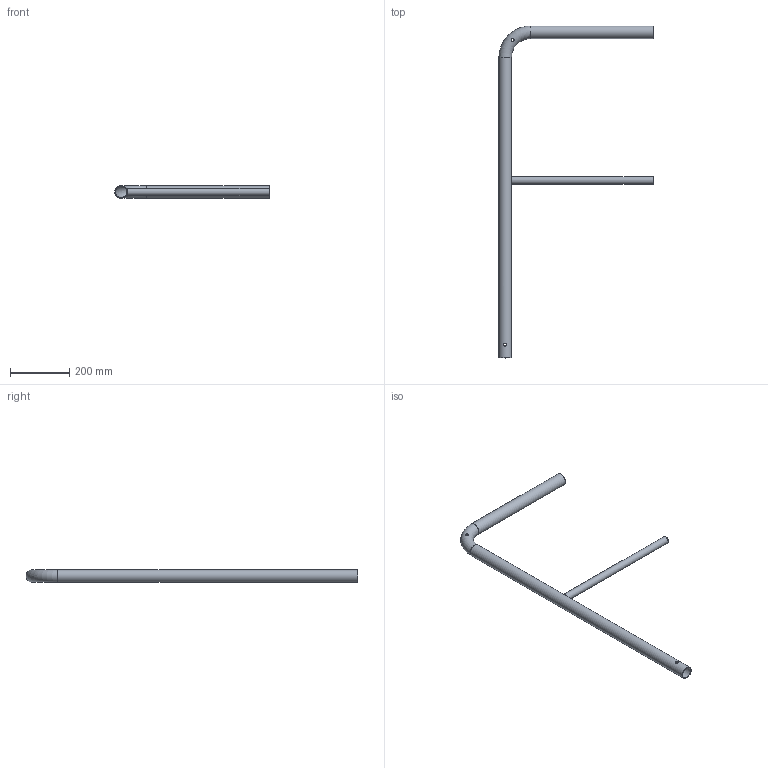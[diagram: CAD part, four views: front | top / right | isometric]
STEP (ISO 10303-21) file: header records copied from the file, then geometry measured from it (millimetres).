
FILE_DESCRIPTION((''),'2;1');
FILE_NAME('S:\Användarkataloger\AndreasA\Mina Inventor filer\Räcken\STEP\ändräcke_smodul_500-1100.stp','2010-09-07T13:41:46',('AndreasA'),(''),'Autodesk Inventor 2011','Autodesk Inventor 2011','');
FILE_SCHEMA(('AUTOMOTIVE_DESIGN { 1 0 10303 214 1 1 1 1 }'));
Length unit declared in the file: millimetre
Products named in the file (3): ändräcke_smodul_500-1100; hledare_ändräcke_smodul_500-1100; mellanliggare_stormodul_479
Assembly tree (2 placements, depth 2):
  ändräcke_smodul_500-1100
    hledare_ändräcke_smodul_500-1100
    mellanliggare_stormodul_479
Bounding box: 521.2 x 1121.2 x 42.4 mm (x, y, z)
Volume: 465280 mm3; surface area: 466332.9 mm2
Topology: 2 solids, 2 shells, 16 faces, 32 edges, 20 vertices
Faces by surface type: cylinder 10, plane 4, torus 2
Full cylindrical faces by diameter (mm): 10 x4, 21 x1, 25 x1, 38.4 x2, 42.4 x2
Entity records: 804 total; most frequent: CARTESIAN_POINT 419, DIRECTION 66, ORIENTED_EDGE 40, EDGE_LOOP 40, AXIS2_PLACEMENT_3D 33, FACE_BOUND 24, VERTEX_POINT 20, EDGE_CURVE 20
